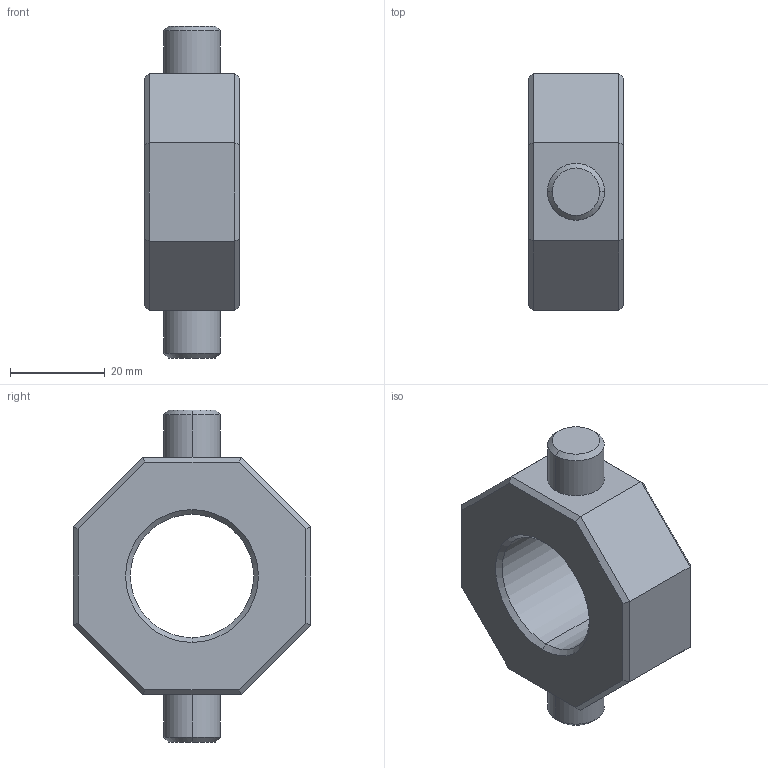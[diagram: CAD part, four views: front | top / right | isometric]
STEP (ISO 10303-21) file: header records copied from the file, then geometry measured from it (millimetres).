
FILE_DESCRIPTION (( 'STEP AP214' ), '1' );
FILE_NAME ('LB-KA-26.STEP', '2025-04-08T06:18:26', ( '' ), ( '' ), 'SwSTEP 2.0', 'SolidWorks 2023', '' );
FILE_SCHEMA (( 'AUTOMOTIVE_DESIGN' ));
Length unit declared in the file: millimetre
Products named in the file (1): LB-KA-26
Bounding box: 20 x 50 x 70 mm (x, y, z)
Volume: 31576.1 mm3; surface area: 9548.9 mm2
Topology: 1 solids, 1 shells, 78 faces, 174 edges, 94 vertices
Faces by surface type: cone 32, plane 28, cylinder 18
Entity records: 2053 total; most frequent: DIRECTION 376, CARTESIAN_POINT 335, ORIENTED_EDGE 324, EDGE_CURVE 162, AXIS2_PLACEMENT_3D 135, VECTOR 106, LINE 106, VERTEX_POINT 94
